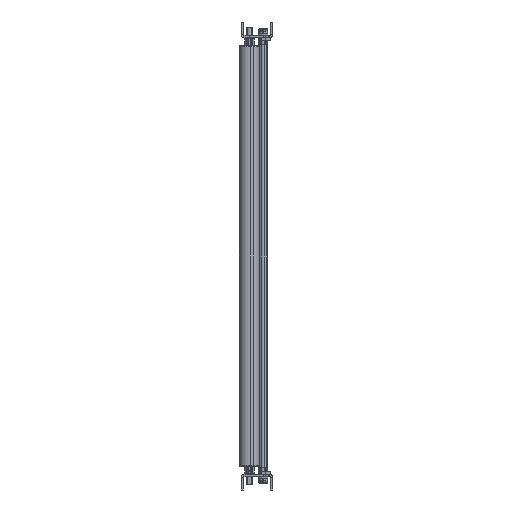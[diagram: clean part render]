
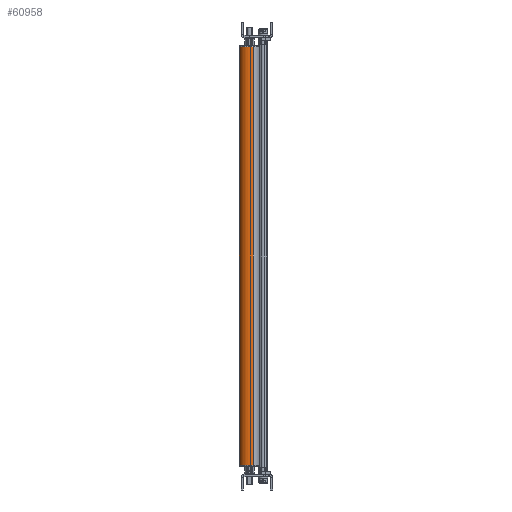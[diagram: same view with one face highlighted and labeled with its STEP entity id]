
A CAD part, left-side view. The second image highlights one B-rep face of the part: STEP entity #60958.
In plain terms, the highlighted cylindrical face has radius 9.55 mm (diameter 19.1 mm), a partial arc.
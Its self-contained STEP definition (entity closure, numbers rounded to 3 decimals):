
#2634 = EDGE_LOOP ( 'NONE', ( #6873, #24136, #23032, #40535 ) ) ;
#3124 = CYLINDRICAL_SURFACE ( 'NONE', #57572, 9.55 ) ;
#4016 = CARTESIAN_POINT ( 'NONE',  ( -2039.702, 273.716, -273.759 ) ) ;
#4998 = LINE ( 'NONE', #10992, #61828 ) ;
#5613 = VERTEX_POINT ( 'NONE', #19214 ) ;
#6873 = ORIENTED_EDGE ( 'NONE', *, *, #22116, .F. ) ;
#8848 = EDGE_CURVE ( 'NONE', #14936, #12459, #39553, .T. ) ;
#10992 = CARTESIAN_POINT ( 'NONE',  ( -2039.702, 273.716, -622.3 ) ) ;
#12459 = VERTEX_POINT ( 'NONE', #12484 ) ;
#12484 = CARTESIAN_POINT ( 'NONE',  ( -2057.345, 266.4, -273.759 ) ) ;
#13615 = VERTEX_POINT ( 'NONE', #54784 ) ;
#14936 = VERTEX_POINT ( 'NONE', #4016 ) ;
#19214 = CARTESIAN_POINT ( 'NONE',  ( -2039.702, 273.716, 124.241 ) ) ;
#22116 = EDGE_CURVE ( 'NONE', #13615, #12459, #48107, .T. ) ;
#23032 = ORIENTED_EDGE ( 'NONE', *, *, #70245, .T. ) ;
#24136 = ORIENTED_EDGE ( 'NONE', *, *, #56832, .T. ) ;
#25694 = DIRECTION ( 'NONE',  ( 0.924, 0.383, 0. ) ) ;
#25950 = CARTESIAN_POINT ( 'NONE',  ( -2057.345, 266.4, -622.3 ) ) ;
#26077 = CARTESIAN_POINT ( 'NONE',  ( -2048.524, 270.058, -622.3 ) ) ;
#30064 = DIRECTION ( 'NONE',  ( -0.924, -0.383, 0. ) ) ;
#35551 = CIRCLE ( 'NONE', #37961, 9.55 ) ;
#37593 = DIRECTION ( 'NONE',  ( 0., 0., -1. ) ) ;
#37961 = AXIS2_PLACEMENT_3D ( 'NONE', #54892, #71447, #64679 ) ;
#39553 = CIRCLE ( 'NONE', #63563, 9.55 ) ;
#40535 = ORIENTED_EDGE ( 'NONE', *, *, #8848, .T. ) ;
#41314 = CARTESIAN_POINT ( 'NONE',  ( -2048.524, 270.058, -273.759 ) ) ;
#42207 = FACE_OUTER_BOUND ( 'NONE', #2634, .T. ) ;
#48107 = LINE ( 'NONE', #25950, #66602 ) ;
#53730 = DIRECTION ( 'NONE',  ( 0., 0., 1. ) ) ;
#54784 = CARTESIAN_POINT ( 'NONE',  ( -2057.345, 266.4, 124.241 ) ) ;
#54892 = CARTESIAN_POINT ( 'NONE',  ( -2048.524, 270.058, 124.241 ) ) ;
#55003 = DIRECTION ( 'NONE',  ( 0., 0., -1. ) ) ;
#56832 = EDGE_CURVE ( 'NONE', #13615, #5613, #35551, .T. ) ;
#57572 = AXIS2_PLACEMENT_3D ( 'NONE', #26077, #55003, #25694 ) ;
#60958 = ADVANCED_FACE ( 'NONE', ( #42207 ), #3124, .T. ) ;
#61828 = VECTOR ( 'NONE', #74185, 1000. ) ;
#63563 = AXIS2_PLACEMENT_3D ( 'NONE', #41314, #53730, #30064 ) ;
#64679 = DIRECTION ( 'NONE',  ( 0.924, 0.383, 0. ) ) ;
#66602 = VECTOR ( 'NONE', #37593, 1000. ) ;
#70245 = EDGE_CURVE ( 'NONE', #5613, #14936, #4998, .T. ) ;
#71447 = DIRECTION ( 'NONE',  ( 0., 0., -1. ) ) ;
#74185 = DIRECTION ( 'NONE',  ( 0., 0., -1. ) ) ;
